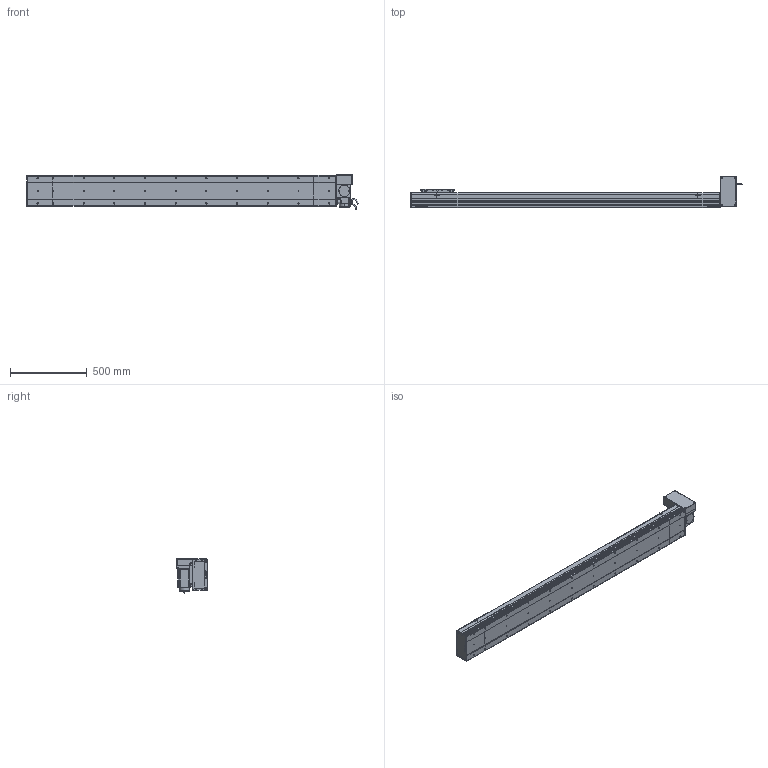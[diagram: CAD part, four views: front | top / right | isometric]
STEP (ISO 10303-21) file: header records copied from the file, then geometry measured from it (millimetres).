
FILE_DESCRIPTION (( 'STEP AP214' ), '1' );
FILE_NAME ('D20 CBH LT S1700.STEP', '2010-06-30T09:41:57', ( 'Conseil Régional Haute-Normandie' ), ( 'Conseil Régional Haute-Normandie' ), 'SwSTEP 2.0', 'SolidWorks 2010', '' );
FILE_SCHEMA (( 'AUTOMOTIVE_DESIGN' ));
Length unit declared in the file: millimetre
Products named in the file (31): avant 90BLDC125A-640; Head LT_Default; Corp Tail D20 LT_Default; Couvercle LT_Default; Plaque De Serrage D20_Default; Corp Tail D20+100_Default; Couvercle S1700_Default; Corp S1700_Default; Tail D20+100_Default; Corp D20 S1700_Default; Glissiere_Default; Chariot D20_Default; vis M5 L30_Default; ecrou_Default; Cache Support Moteur LT_Default; Support Chariot D20_Default; vis M5 L47_Default; Conecteur_Default; Conecteur2_Default; codeur 90BLDC125-640; corps 90BLDC125A-640; Plaque de Bout Tail D20_Default; D20 CBH LT S1700; Plaque de Bout Head D20 LT_Default; vis M5 L15_Default; Plaque De Serrage D20 LT_Default; Rondelle Cache D20 LT_Default; Couvercle_Default; Moteur motionking 90BLDC125A-640; Support moteur LT_Default
Assembly tree (66 placements, depth 4):
  D20 CBH LT S1700
    Chariot D20_Default
      vis M5 L15_Default  x8
      Support Chariot D20_Default
      Chariot D20_Default
      Glissiere_Default
    Tail D20+100_Default
      vis M5 L15_Default  x6
      Plaque de Bout Tail D20_Default
      Plaque De Serrage D20_Default
      Couvercle_Default
      Corp Tail D20+100_Default
    Head LT_Default
      Rondelle Cache D20 LT_Default  x3
      Moteur motionking 90BLDC125A-640
        codeur 90BLDC125-640
        avant 90BLDC125A-640
        Conecteur_Default
        Conecteur2_Default
        corps 90BLDC125A-640
      ecrou_Default  x4
      Support moteur LT_Default
      vis M5 L15_Default  x12
      vis M5 L47_Default  x4
      vis M5 L30_Default  x4
      Plaque De Serrage D20 LT_Default
      Cache Support Moteur LT_Default
      Plaque de Bout Head D20 LT_Default
      Couvercle LT_Default
      Corp Tail D20 LT_Default
    Corp D20 S1700_Default
      Corp S1700_Default
      Couvercle S1700_Default
Bounding box: 2163.45 x 202.5 x 229.7 mm (x, y, z)
Volume: 14951473.7 mm3; surface area: 2958846.8 mm2
Topology: 103 solids, 103 shells, 3777 faces, 9476 edges, 6160 vertices
Faces by surface type: plane 2098, bspline 806, cylinder 710, torus 91, cone 68, sphere 4
Entity records: 160798 total; most frequent: CARTESIAN_POINT 83257, ORIENTED_EDGE 15420, DIRECTION 11640, EDGE_CURVE 7710, VERTEX_POINT 5104, VECTOR 4958, LINE 4958, AXIS2_PLACEMENT_3D 3341
